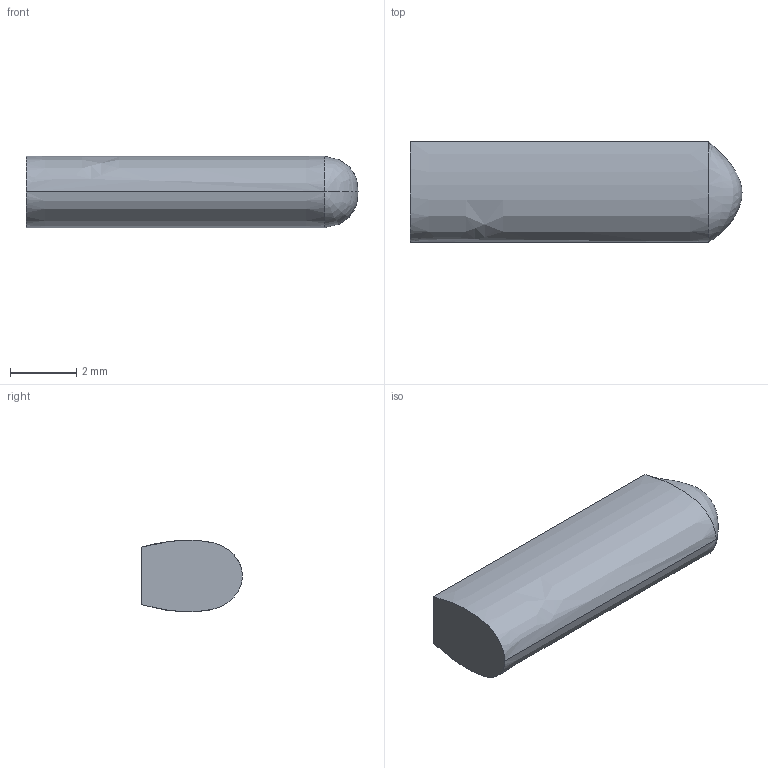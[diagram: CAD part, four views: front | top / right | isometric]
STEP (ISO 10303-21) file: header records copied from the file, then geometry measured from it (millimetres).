
FILE_DESCRIPTION((''),'1');
FILE_NAME('ELEK-ST10-12E','2001-03-29T',('rgoetz'),(''),'PRO/ENGINEER BY PARAMETRIC TECHNOLOGY CORPORATION, 2000350','PRO/ENGINEER BY PARAMETRIC TECHNOLOGY CORPORATION, 2000350','');
FILE_SCHEMA(('CONFIG_CONTROL_DESIGN'));
Length unit declared in the file: millimetre
Products named in the file (1): ELEK-ST10-12E
Bounding box: 10 x 3.03 x 2.16 mm (x, y, z)
Volume: 54.5 mm3; surface area: 95.1 mm2
Topology: 1 solids, 1 shells, 6 faces, 13 edges, 7 vertices
Faces by surface type: plane 2, extrusion 2, bspline 2
Entity records: 496 total; most frequent: CARTESIAN_POINT 355, ORIENTED_EDGE 22, EDGE_CURVE 11, DIRECTION 10, B_SPLINE_CURVE_WITH_KNOTS 9, VERTEX_POINT 7, VECTOR 6, EDGE_LOOP 6
